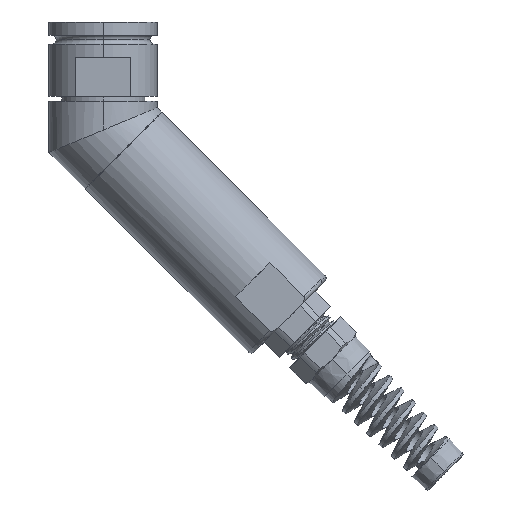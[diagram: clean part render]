
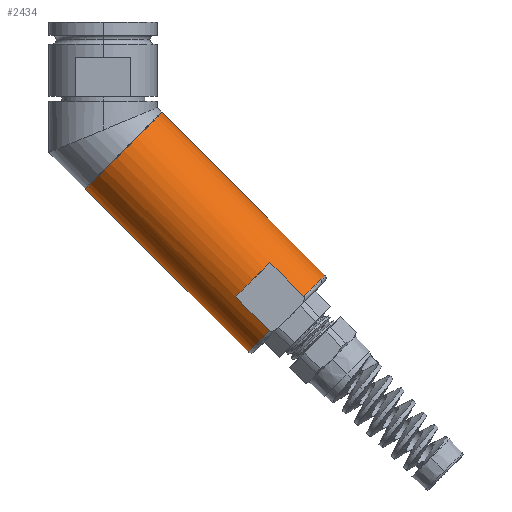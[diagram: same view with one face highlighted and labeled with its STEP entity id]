
A CAD part, left-side view. The second image highlights one B-rep face of the part: STEP entity #2434.
In plain terms, the highlighted cylindrical face has radius 13.208 mm (diameter 26.416 mm), a partial arc.
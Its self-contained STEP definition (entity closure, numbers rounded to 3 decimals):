
#759 = DIRECTION ( 'NONE',  ( 0., 0.707, 0.707 ) ) ;
#819 = DIRECTION ( 'NONE',  ( 0., -0.707, 0.707 ) ) ;
#846 = EDGE_CURVE ( 'NONE', #12031, #4688, #5415, .T. ) ;
#1043 = VECTOR ( 'NONE', #6387, 1000. ) ;
#1096 = DIRECTION ( 'NONE',  ( 0., -0.707, 0.707 ) ) ;
#1313 = DIRECTION ( 'NONE',  ( 0., 0.707, 0.707 ) ) ;
#1384 = CARTESIAN_POINT ( 'NONE',  ( 0., -44.765, -65.476 ) ) ;
#1494 = AXIS2_PLACEMENT_3D ( 'NONE', #10941, #5071, #1096 ) ;
#1700 = CARTESIAN_POINT ( 'NONE',  ( 0., -54.104, -56.136 ) ) ;
#1716 = FACE_OUTER_BOUND ( 'NONE', #11738, .T. ) ;
#1717 = DIRECTION ( 'NONE',  ( 0., -0.707, 0.707 ) ) ;
#2218 = CARTESIAN_POINT ( 'NONE',  ( 0., 4.303, -35.086 ) ) ;
#2434 = ADVANCED_FACE ( 'NONE', ( #1716 ), #8724, .T. ) ;
#2513 = CARTESIAN_POINT ( 'NONE',  ( 0., -14.375, -16.407 ) ) ;
#2761 = VERTEX_POINT ( 'NONE', #1700 ) ;
#3372 = VERTEX_POINT ( 'NONE', #4320 ) ;
#3439 = EDGE_CURVE ( 'NONE', #3831, #5905, #12257, .T. ) ;
#3544 = CIRCLE ( 'NONE', #1494, 13.208 ) ;
#3616 = ORIENTED_EDGE ( 'NONE', *, *, #10775, .F. ) ;
#3650 = DIRECTION ( 'NONE',  ( 0., 0.707, 0.707 ) ) ;
#3703 = CARTESIAN_POINT ( 'NONE',  ( 0., 4.303, -35.086 ) ) ;
#3831 = VERTEX_POINT ( 'NONE', #9326 ) ;
#4163 = CARTESIAN_POINT ( 'NONE',  ( -11.811, -48.945, -61.295 ) ) ;
#4198 = ORIENTED_EDGE ( 'NONE', *, *, #9530, .F. ) ;
#4316 = CARTESIAN_POINT ( 'NONE',  ( -11.811, -40.584, -69.656 ) ) ;
#4320 = CARTESIAN_POINT ( 'NONE',  ( 0., -35.425, -74.815 ) ) ;
#4688 = VERTEX_POINT ( 'NONE', #10696 ) ;
#4830 = VECTOR ( 'NONE', #6145, 1000. ) ;
#5057 = VECTOR ( 'NONE', #1313, 1000. ) ;
#5071 = DIRECTION ( 'NONE',  ( 0., 0.707, 0.707 ) ) ;
#5287 = LINE ( 'NONE', #9212, #12632 ) ;
#5415 = CIRCLE ( 'NONE', #8705, 13.208 ) ;
#5825 = VERTEX_POINT ( 'NONE', #6935 ) ;
#5905 = VERTEX_POINT ( 'NONE', #4163 ) ;
#6145 = DIRECTION ( 'NONE',  ( 0., 0.707, 0.707 ) ) ;
#6387 = DIRECTION ( 'NONE',  ( 0., -0.707, -0.707 ) ) ;
#6441 = EDGE_CURVE ( 'NONE', #5905, #2761, #3544, .T. ) ;
#6669 = VERTEX_POINT ( 'NONE', #4316 ) ;
#6712 = EDGE_CURVE ( 'NONE', #3372, #6669, #12379, .T. ) ;
#6935 = CARTESIAN_POINT ( 'NONE',  ( -11.811, -32.322, -61.394 ) ) ;
#7340 = LINE ( 'NONE', #2513, #5057 ) ;
#7349 = CARTESIAN_POINT ( 'NONE',  ( -11.811, -40.683, -53.033 ) ) ;
#7410 = DIRECTION ( 'NONE',  ( 0., 0.707, 0.707 ) ) ;
#7819 = ORIENTED_EDGE ( 'NONE', *, *, #11469, .T. ) ;
#8109 = CIRCLE ( 'NONE', #10179, 13.208 ) ;
#8267 = AXIS2_PLACEMENT_3D ( 'NONE', #1384, #3650, #11510 ) ;
#8330 = AXIS2_PLACEMENT_3D ( 'NONE', #10729, #759, #819 ) ;
#8705 = AXIS2_PLACEMENT_3D ( 'NONE', #9413, #7410, #11232 ) ;
#8724 = CYLINDRICAL_SURFACE ( 'NONE', #8330, 13.208 ) ;
#9034 = LINE ( 'NONE', #2218, #4830 ) ;
#9212 = CARTESIAN_POINT ( 'NONE',  ( -11.811, -32.322, -61.394 ) ) ;
#9279 = DIRECTION ( 'NONE',  ( 0., -0.707, -0.707 ) ) ;
#9326 = CARTESIAN_POINT ( 'NONE',  ( -11.811, -40.683, -53.033 ) ) ;
#9413 = CARTESIAN_POINT ( 'NONE',  ( 0., -5.036, -25.747 ) ) ;
#9530 = EDGE_CURVE ( 'NONE', #3831, #5825, #8109, .T. ) ;
#10116 = ORIENTED_EDGE ( 'NONE', *, *, #6441, .T. ) ;
#10161 = ORIENTED_EDGE ( 'NONE', *, *, #3439, .T. ) ;
#10179 = AXIS2_PLACEMENT_3D ( 'NONE', #11632, #10537, #1717 ) ;
#10184 = EDGE_CURVE ( 'NONE', #5825, #6669, #5287, .T. ) ;
#10537 = DIRECTION ( 'NONE',  ( 0., -0.707, -0.707 ) ) ;
#10696 = CARTESIAN_POINT ( 'NONE',  ( 0., -14.375, -16.407 ) ) ;
#10718 = ORIENTED_EDGE ( 'NONE', *, *, #10184, .F. ) ;
#10729 = CARTESIAN_POINT ( 'NONE',  ( 0., -5.036, -25.747 ) ) ;
#10775 = EDGE_CURVE ( 'NONE', #3372, #12031, #9034, .T. ) ;
#10857 = ORIENTED_EDGE ( 'NONE', *, *, #6712, .T. ) ;
#10941 = CARTESIAN_POINT ( 'NONE',  ( 0., -44.765, -65.476 ) ) ;
#11232 = DIRECTION ( 'NONE',  ( 0., -0.707, 0.707 ) ) ;
#11469 = EDGE_CURVE ( 'NONE', #2761, #4688, #7340, .T. ) ;
#11510 = DIRECTION ( 'NONE',  ( 0., -0.707, 0.707 ) ) ;
#11588 = ORIENTED_EDGE ( 'NONE', *, *, #846, .F. ) ;
#11632 = CARTESIAN_POINT ( 'NONE',  ( 0., -36.503, -57.214 ) ) ;
#11738 = EDGE_LOOP ( 'NONE', ( #3616, #10857, #10718, #4198, #10161, #10116, #7819, #11588 ) ) ;
#12031 = VERTEX_POINT ( 'NONE', #3703 ) ;
#12257 = LINE ( 'NONE', #7349, #1043 ) ;
#12379 = CIRCLE ( 'NONE', #8267, 13.208 ) ;
#12632 = VECTOR ( 'NONE', #9279, 1000. ) ;
